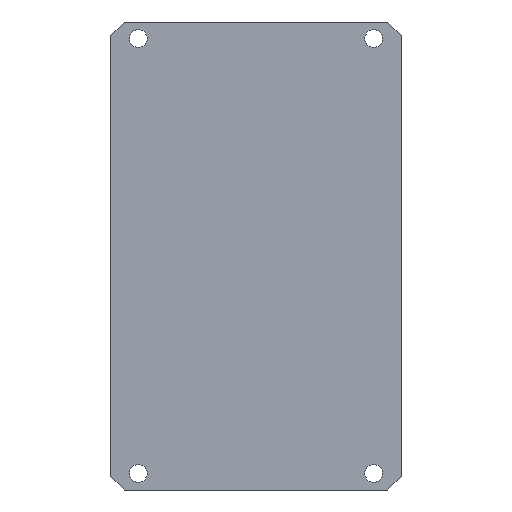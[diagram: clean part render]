
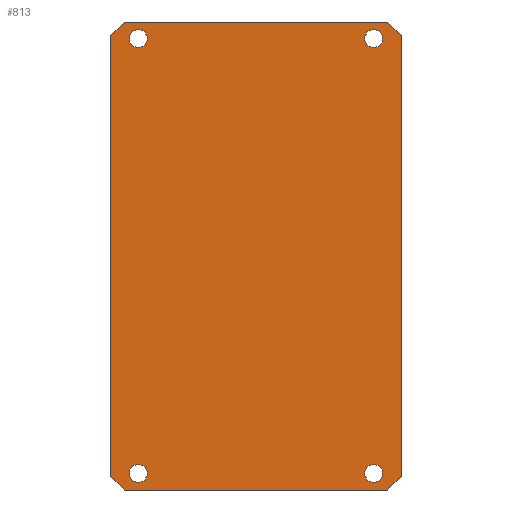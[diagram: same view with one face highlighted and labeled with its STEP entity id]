
A CAD part, front view. The second image highlights one B-rep face of the part: STEP entity #813.
In plain terms, the highlighted planar face has unit normal (0, -1, 0).
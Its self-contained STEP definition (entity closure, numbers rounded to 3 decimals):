
#33=LINE('',#1329,#85);
#35=LINE('',#1333,#87);
#42=LINE('',#1347,#94);
#43=LINE('',#1349,#95);
#44=LINE('',#1351,#96);
#45=LINE('',#1353,#97);
#46=LINE('',#1355,#98);
#47=LINE('',#1356,#99);
#85=VECTOR('',#1104,10.);
#87=VECTOR('',#1108,10.);
#94=VECTOR('',#1117,10.);
#95=VECTOR('',#1118,10.);
#96=VECTOR('',#1119,10.);
#97=VECTOR('',#1120,10.);
#98=VECTOR('',#1121,10.);
#99=VECTOR('',#1122,10.);
#140=PLANE('',#912);
#180=FACE_BOUND('',#316,.T.);
#181=FACE_BOUND('',#317,.T.);
#182=FACE_BOUND('',#318,.T.);
#183=FACE_BOUND('',#319,.T.);
#232=FACE_OUTER_BOUND('',#315,.T.);
#315=EDGE_LOOP('',(#668,#669,#670,#671,#672,#673,#674,#675));
#316=EDGE_LOOP('',(#676));
#317=EDGE_LOOP('',(#677));
#318=EDGE_LOOP('',(#678));
#319=EDGE_LOOP('',(#679));
#380=CIRCLE('',#913,1.6);
#381=CIRCLE('',#914,1.6);
#382=CIRCLE('',#915,1.6);
#383=CIRCLE('',#916,1.6);
#434=VERTEX_POINT('',#1326);
#435=VERTEX_POINT('',#1328);
#436=VERTEX_POINT('',#1332);
#442=VERTEX_POINT('',#1346);
#443=VERTEX_POINT('',#1348);
#444=VERTEX_POINT('',#1350);
#445=VERTEX_POINT('',#1352);
#446=VERTEX_POINT('',#1354);
#447=VERTEX_POINT('',#1357);
#448=VERTEX_POINT('',#1359);
#449=VERTEX_POINT('',#1361);
#450=VERTEX_POINT('',#1363);
#518=EDGE_CURVE('',#434,#435,#33,.T.);
#520=EDGE_CURVE('',#436,#435,#35,.T.);
#527=EDGE_CURVE('',#434,#442,#42,.T.);
#528=EDGE_CURVE('',#443,#442,#43,.T.);
#529=EDGE_CURVE('',#443,#444,#44,.T.);
#530=EDGE_CURVE('',#445,#444,#45,.T.);
#531=EDGE_CURVE('',#445,#446,#46,.T.);
#532=EDGE_CURVE('',#436,#446,#47,.T.);
#533=EDGE_CURVE('',#447,#447,#380,.T.);
#534=EDGE_CURVE('',#448,#448,#381,.T.);
#535=EDGE_CURVE('',#449,#449,#382,.T.);
#536=EDGE_CURVE('',#450,#450,#383,.T.);
#668=ORIENTED_EDGE('',*,*,#518,.F.);
#669=ORIENTED_EDGE('',*,*,#527,.T.);
#670=ORIENTED_EDGE('',*,*,#528,.F.);
#671=ORIENTED_EDGE('',*,*,#529,.T.);
#672=ORIENTED_EDGE('',*,*,#530,.F.);
#673=ORIENTED_EDGE('',*,*,#531,.T.);
#674=ORIENTED_EDGE('',*,*,#532,.F.);
#675=ORIENTED_EDGE('',*,*,#520,.T.);
#676=ORIENTED_EDGE('',*,*,#533,.T.);
#677=ORIENTED_EDGE('',*,*,#534,.T.);
#678=ORIENTED_EDGE('',*,*,#535,.T.);
#679=ORIENTED_EDGE('',*,*,#536,.T.);
#813=ADVANCED_FACE('',(#232,#180,#181,#182,#183),#140,.T.);
#912=AXIS2_PLACEMENT_3D('',#1345,#1115,#1116);
#913=AXIS2_PLACEMENT_3D('',#1358,#1123,#1124);
#914=AXIS2_PLACEMENT_3D('',#1360,#1125,#1126);
#915=AXIS2_PLACEMENT_3D('',#1362,#1127,#1128);
#916=AXIS2_PLACEMENT_3D('',#1364,#1129,#1130);
#1104=DIRECTION('',(-0.707,0.,0.707));
#1108=DIRECTION('',(0.,0.,-1.));
#1115=DIRECTION('center_axis',(0.,-1.,0.));
#1116=DIRECTION('ref_axis',(0.,0.,-1.));
#1117=DIRECTION('',(1.,0.,0.));
#1118=DIRECTION('',(-0.707,0.,-0.707));
#1119=DIRECTION('',(0.,0.,1.));
#1120=DIRECTION('',(0.707,0.,-0.707));
#1121=DIRECTION('',(-1.,0.,0.));
#1122=DIRECTION('',(0.707,0.,0.707));
#1123=DIRECTION('center_axis',(0.,1.,0.));
#1124=DIRECTION('ref_axis',(1.,0.,0.));
#1125=DIRECTION('center_axis',(0.,1.,0.));
#1126=DIRECTION('ref_axis',(1.,0.,0.));
#1127=DIRECTION('center_axis',(0.,1.,0.));
#1128=DIRECTION('ref_axis',(1.,0.,0.));
#1129=DIRECTION('center_axis',(0.,1.,0.));
#1130=DIRECTION('ref_axis',(1.,0.,0.));
#1326=CARTESIAN_POINT('',(-50.,0.,-84.5));
#1328=CARTESIAN_POINT('',(-52.5,0.,-82.));
#1329=CARTESIAN_POINT('',(-55.25,0.,-79.25));
#1332=CARTESIAN_POINT('',(-52.5,0.,-2.5));
#1333=CARTESIAN_POINT('',(-52.5,0.,0.));
#1345=CARTESIAN_POINT('Origin',(-26.25,0.,-42.25));
#1346=CARTESIAN_POINT('',(-2.5,0.,-84.5));
#1347=CARTESIAN_POINT('',(-52.5,0.,-84.5));
#1348=CARTESIAN_POINT('',(0.,0.,-82.));
#1349=CARTESIAN_POINT('',(2.75,0.,-79.25));
#1350=CARTESIAN_POINT('',(0.,0.,-2.5));
#1351=CARTESIAN_POINT('',(0.,0.,-84.5));
#1352=CARTESIAN_POINT('',(-2.5,0.,0.));
#1353=CARTESIAN_POINT('',(2.75,0.,-5.25));
#1354=CARTESIAN_POINT('',(-50.,0.,0.));
#1355=CARTESIAN_POINT('',(0.,0.,0.));
#1356=CARTESIAN_POINT('',(-55.25,0.,-5.25));
#1357=CARTESIAN_POINT('',(-49.1,0.,-81.5));
#1358=CARTESIAN_POINT('Origin',(-47.5,0.,-81.5));
#1359=CARTESIAN_POINT('',(-6.6,0.,-81.5));
#1360=CARTESIAN_POINT('Origin',(-5.,0.,-81.5));
#1361=CARTESIAN_POINT('',(-49.1,0.,-3.));
#1362=CARTESIAN_POINT('Origin',(-47.5,0.,-3.));
#1363=CARTESIAN_POINT('',(-6.6,0.,-3.));
#1364=CARTESIAN_POINT('Origin',(-5.,0.,-3.));
